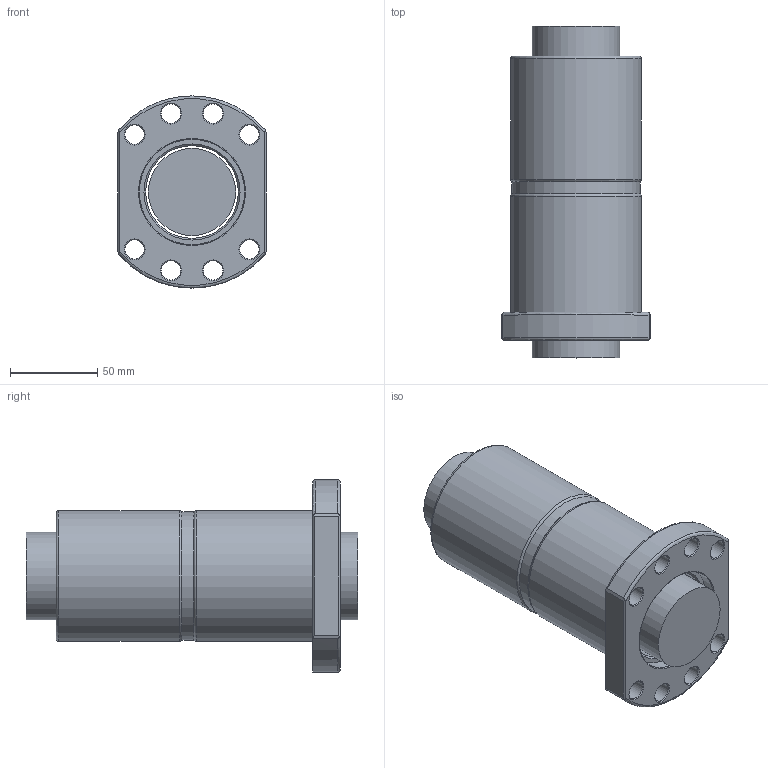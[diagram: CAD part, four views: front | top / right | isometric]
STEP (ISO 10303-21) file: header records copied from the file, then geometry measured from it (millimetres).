
FILE_DESCRIPTION(/* description */ (''),/* implementation_level */ '2;1');
FILE_NAME(/* name */ '5010.prt.step',/* time_stamp */ '2008-12-05T09:28:11+08:00',/* author */ (''),/* organization */ (''),/* preprocessor_version */ 'ST-DEVELOPER v11',/* originating_system */ 'SIEMENS UGS NX 6.0',/* authorisation */ '');
FILE_SCHEMA (('AUTOMOTIVE_DESIGN { 1 0 10303 214 1 1 1 1 }'));
Length unit declared in the file: millimetre
Products named in the file (1): 5010
Bounding box: 85 x 190 x 110 mm (x, y, z)
Volume: 766915.8 mm3; surface area: 123127.9 mm2
Topology: 4 solids, 4 shells, 74 faces, 163 edges, 102 vertices
Faces by surface type: plane 23, cylinder 21, cone 20, torus 10
Full cylindrical faces by diameter (mm): 11 x8, 49.95 x1, 53 x2, 54 x1, 60.3 x4, 73.5 x1, 75 x2
Entity records: 1989 total; most frequent: CARTESIAN_POINT 460, DIRECTION 322, ORIENTED_EDGE 220, AXIS2_PLACEMENT_3D 149, EDGE_LOOP 147, FACE_BOUND 130, EDGE_CURVE 110, VERTEX_POINT 95
